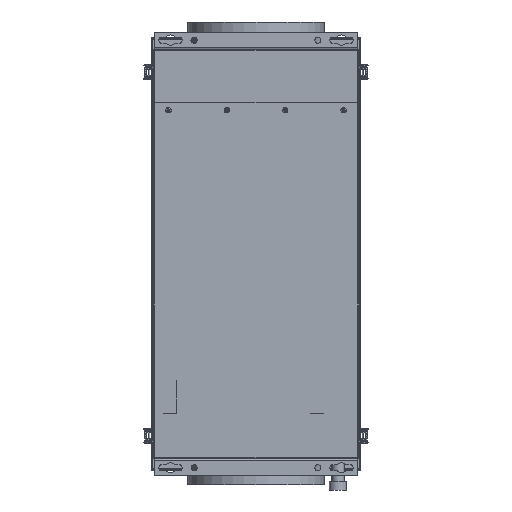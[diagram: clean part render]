
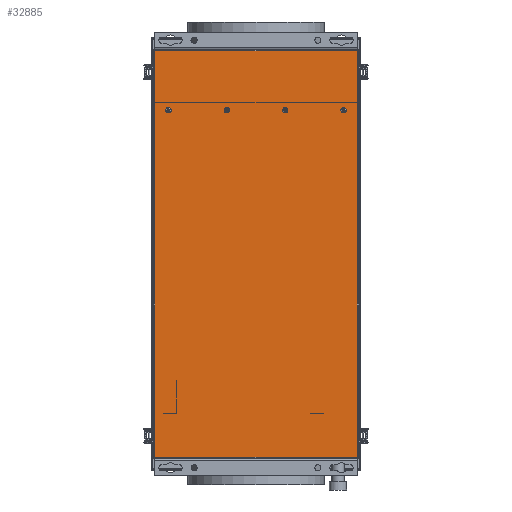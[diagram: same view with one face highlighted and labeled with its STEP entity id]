
A CAD part, front view. The second image highlights one B-rep face of the part: STEP entity #32885.
In plain terms, the highlighted planar face has unit normal (0, -1, 0).
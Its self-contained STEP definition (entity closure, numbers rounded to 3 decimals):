
#339 = VECTOR ( 'NONE', #23918, 1000. ) ;
#530 = DIRECTION ( 'NONE',  ( 0., -1., 0. ) ) ;
#680 = DIRECTION ( 'NONE',  ( 0., -1., 0. ) ) ;
#979 = DIRECTION ( 'NONE',  ( 0., -1., 0. ) ) ;
#1132 = ORIENTED_EDGE ( 'NONE', *, *, #11041, .F. ) ;
#2091 = ORIENTED_EDGE ( 'NONE', *, *, #27562, .F. ) ;
#2356 = AXIS2_PLACEMENT_3D ( 'NONE', #16126, #530, #18756 ) ;
#2745 = CARTESIAN_POINT ( 'NONE',  ( 150., 0., 299. ) ) ;
#2881 = DIRECTION ( 'NONE',  ( -1., 0., 0. ) ) ;
#3087 = CARTESIAN_POINT ( 'NONE',  ( 148., 0., -299. ) ) ;
#3174 = AXIS2_PLACEMENT_3D ( 'NONE', #16258, #680, #18892 ) ;
#3541 = FACE_BOUND ( 'NONE', #23309, .T. ) ;
#3665 = CARTESIAN_POINT ( 'NONE',  ( 42.667, 0., 212.1 ) ) ;
#4169 = CARTESIAN_POINT ( 'NONE',  ( -148., 0., 297. ) ) ;
#4190 = AXIS2_PLACEMENT_3D ( 'NONE', #20638, #5015, #23257 ) ;
#4255 = VERTEX_POINT ( 'NONE', #14515 ) ;
#4331 = AXIS2_PLACEMENT_3D ( 'NONE', #24127, #8493, #26771 ) ;
#4492 = AXIS2_PLACEMENT_3D ( 'NONE', #2745, #26340, #10684 ) ;
#4496 = ORIENTED_EDGE ( 'NONE', *, *, #11357, .F. ) ;
#4731 = CARTESIAN_POINT ( 'NONE',  ( -42.667, 0., 207.9 ) ) ;
#4954 = CIRCLE ( 'NONE', #2356, 2.1 ) ;
#5015 = DIRECTION ( 'NONE',  ( 0., -1., 0. ) ) ;
#5317 = DIRECTION ( 'NONE',  ( 0., -1., 0. ) ) ;
#6147 = DIRECTION ( 'NONE',  ( 0., -1., 0. ) ) ;
#6193 = AXIS2_PLACEMENT_3D ( 'NONE', #16560, #979, #19188 ) ;
#6694 = VERTEX_POINT ( 'NONE', #18618 ) ;
#8093 = VECTOR ( 'NONE', #21003, 1000. ) ;
#8419 = DIRECTION ( 'NONE',  ( 0., -1., 0. ) ) ;
#8493 = DIRECTION ( 'NONE',  ( 0., -1., 0. ) ) ;
#9348 = CIRCLE ( 'NONE', #4331, 2.1 ) ;
#9516 = VERTEX_POINT ( 'NONE', #25959 ) ;
#9591 = VECTOR ( 'NONE', #2881, 1000. ) ;
#9846 = CIRCLE ( 'NONE', #26232, 2.1 ) ;
#10440 = FACE_BOUND ( 'NONE', #19532, .T. ) ;
#10528 = VERTEX_POINT ( 'NONE', #24331 ) ;
#10659 = CARTESIAN_POINT ( 'NONE',  ( 128., 0., 207.9 ) ) ;
#10684 = DIRECTION ( 'NONE',  ( 0., 0., -1. ) ) ;
#10696 = CARTESIAN_POINT ( 'NONE',  ( 148., 0., 297. ) ) ;
#11028 = CARTESIAN_POINT ( 'NONE',  ( 148., 0., -297. ) ) ;
#11041 = EDGE_CURVE ( 'NONE', #30076, #29745, #11092, .T. ) ;
#11092 = CIRCLE ( 'NONE', #25096, 2.1 ) ;
#11357 = EDGE_CURVE ( 'NONE', #32058, #13500, #9846, .T. ) ;
#12298 = EDGE_CURVE ( 'NONE', #6694, #19114, #18390, .T. ) ;
#12792 = EDGE_LOOP ( 'NONE', ( #4496, #25718 ) ) ;
#12860 = EDGE_CURVE ( 'NONE', #21563, #9516, #22811, .T. ) ;
#13500 = VERTEX_POINT ( 'NONE', #3665 ) ;
#14117 = EDGE_CURVE ( 'NONE', #26489, #10528, #22778, .T. ) ;
#14515 = CARTESIAN_POINT ( 'NONE',  ( 148., 0., 297. ) ) ;
#14940 = LINE ( 'NONE', #3087, #339 ) ;
#16030 = EDGE_CURVE ( 'NONE', #4255, #26489, #16541, .T. ) ;
#16126 = CARTESIAN_POINT ( 'NONE',  ( 42.667, 0., 210. ) ) ;
#16133 = VERTEX_POINT ( 'NONE', #11028 ) ;
#16258 = CARTESIAN_POINT ( 'NONE',  ( -128., 0., 210. ) ) ;
#16399 = ORIENTED_EDGE ( 'NONE', *, *, #12298, .F. ) ;
#16402 = ORIENTED_EDGE ( 'NONE', *, *, #28101, .F. ) ;
#16541 = LINE ( 'NONE', #10696, #9591 ) ;
#16560 = CARTESIAN_POINT ( 'NONE',  ( -128., 0., 210. ) ) ;
#18390 = CIRCLE ( 'NONE', #4190, 2.1 ) ;
#18618 = CARTESIAN_POINT ( 'NONE',  ( -42.667, 0., 212.1 ) ) ;
#18756 = DIRECTION ( 'NONE',  ( 0., 0., -1. ) ) ;
#18817 = EDGE_CURVE ( 'NONE', #16133, #4255, #14940, .T. ) ;
#18892 = DIRECTION ( 'NONE',  ( 0., 0., -1. ) ) ;
#19018 = EDGE_LOOP ( 'NONE', ( #30299, #31008, #21792, #28270 ) ) ;
#19114 = VERTEX_POINT ( 'NONE', #4731 ) ;
#19188 = DIRECTION ( 'NONE',  ( 0., 0., -1. ) ) ;
#19532 = EDGE_LOOP ( 'NONE', ( #1132, #2091 ) ) ;
#20049 = CARTESIAN_POINT ( 'NONE',  ( -148., 0., -297. ) ) ;
#20268 = CARTESIAN_POINT ( 'NONE',  ( -128., 0., 212.1 ) ) ;
#20638 = CARTESIAN_POINT ( 'NONE',  ( -42.667, 0., 210. ) ) ;
#20935 = CARTESIAN_POINT ( 'NONE',  ( 42.667, 0., 210. ) ) ;
#21003 = DIRECTION ( 'NONE',  ( 0., 0., -1. ) ) ;
#21068 = PLANE ( 'NONE',  #4492 ) ;
#21563 = VERTEX_POINT ( 'NONE', #20268 ) ;
#21566 = VECTOR ( 'NONE', #22668, 1000. ) ;
#21769 = CARTESIAN_POINT ( 'NONE',  ( 128., 0., 210. ) ) ;
#21792 = ORIENTED_EDGE ( 'NONE', *, *, #18817, .T. ) ;
#21996 = AXIS2_PLACEMENT_3D ( 'NONE', #24059, #8419, #26699 ) ;
#22356 = CARTESIAN_POINT ( 'NONE',  ( 42.667, 0., 207.9 ) ) ;
#22668 = DIRECTION ( 'NONE',  ( 1., 0., 0. ) ) ;
#22778 = LINE ( 'NONE', #31363, #8093 ) ;
#22811 = CIRCLE ( 'NONE', #6193, 2.1 ) ;
#23257 = DIRECTION ( 'NONE',  ( 0., 0., -1. ) ) ;
#23309 = EDGE_LOOP ( 'NONE', ( #25187, #29340 ) ) ;
#23561 = DIRECTION ( 'NONE',  ( 0., 0., -1. ) ) ;
#23918 = DIRECTION ( 'NONE',  ( 0., 0., 1. ) ) ;
#24059 = CARTESIAN_POINT ( 'NONE',  ( 128., 0., 210. ) ) ;
#24127 = CARTESIAN_POINT ( 'NONE',  ( -42.667, 0., 210. ) ) ;
#24312 = FACE_BOUND ( 'NONE', #30668, .T. ) ;
#24331 = CARTESIAN_POINT ( 'NONE',  ( -148., 0., -297. ) ) ;
#24409 = DIRECTION ( 'NONE',  ( 0., 0., -1. ) ) ;
#25096 = AXIS2_PLACEMENT_3D ( 'NONE', #21769, #6147, #24409 ) ;
#25187 = ORIENTED_EDGE ( 'NONE', *, *, #31504, .F. ) ;
#25718 = ORIENTED_EDGE ( 'NONE', *, *, #27015, .F. ) ;
#25959 = CARTESIAN_POINT ( 'NONE',  ( -128., 0., 207.9 ) ) ;
#26232 = AXIS2_PLACEMENT_3D ( 'NONE', #20935, #5317, #23561 ) ;
#26340 = DIRECTION ( 'NONE',  ( 0., -1., 0. ) ) ;
#26489 = VERTEX_POINT ( 'NONE', #4169 ) ;
#26699 = DIRECTION ( 'NONE',  ( 0., 0., -1. ) ) ;
#26771 = DIRECTION ( 'NONE',  ( 0., 0., -1. ) ) ;
#27015 = EDGE_CURVE ( 'NONE', #13500, #32058, #4954, .T. ) ;
#27562 = EDGE_CURVE ( 'NONE', #29745, #30076, #31015, .T. ) ;
#28101 = EDGE_CURVE ( 'NONE', #19114, #6694, #9348, .T. ) ;
#28270 = ORIENTED_EDGE ( 'NONE', *, *, #16030, .T. ) ;
#28927 = CIRCLE ( 'NONE', #3174, 2.1 ) ;
#29320 = LINE ( 'NONE', #20049, #21566 ) ;
#29340 = ORIENTED_EDGE ( 'NONE', *, *, #12860, .F. ) ;
#29393 = EDGE_CURVE ( 'NONE', #10528, #16133, #29320, .T. ) ;
#29610 = CARTESIAN_POINT ( 'NONE',  ( 128., 0., 212.1 ) ) ;
#29745 = VERTEX_POINT ( 'NONE', #29610 ) ;
#30076 = VERTEX_POINT ( 'NONE', #10659 ) ;
#30299 = ORIENTED_EDGE ( 'NONE', *, *, #14117, .T. ) ;
#30668 = EDGE_LOOP ( 'NONE', ( #16402, #16399 ) ) ;
#31008 = ORIENTED_EDGE ( 'NONE', *, *, #29393, .T. ) ;
#31015 = CIRCLE ( 'NONE', #21996, 2.1 ) ;
#31240 = FACE_BOUND ( 'NONE', #12792, .T. ) ;
#31363 = CARTESIAN_POINT ( 'NONE',  ( -148., 0., 299. ) ) ;
#31504 = EDGE_CURVE ( 'NONE', #9516, #21563, #28927, .T. ) ;
#32058 = VERTEX_POINT ( 'NONE', #22356 ) ;
#32870 = FACE_OUTER_BOUND ( 'NONE', #19018, .T. ) ;
#32885 = ADVANCED_FACE ( 'NONE', ( #31240, #10440, #32870, #24312, #3541 ), #21068, .T. ) ;
